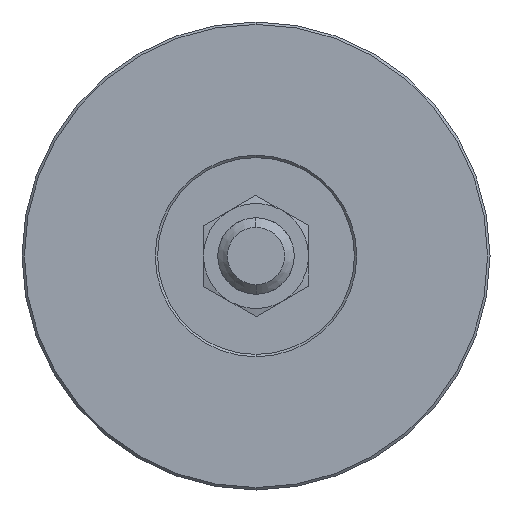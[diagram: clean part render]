
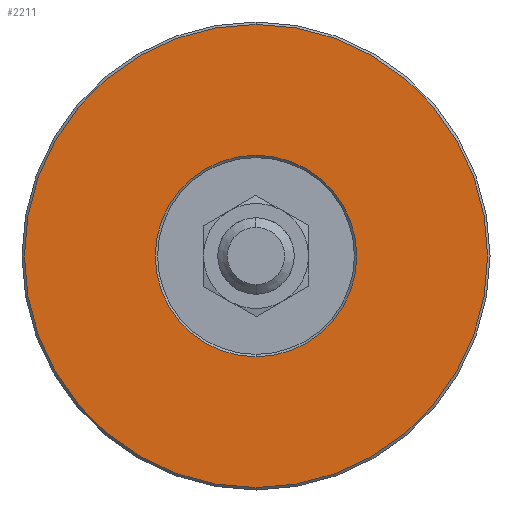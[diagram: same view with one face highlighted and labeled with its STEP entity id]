
A CAD part, front view. The second image highlights one B-rep face of the part: STEP entity #2211.
In plain terms, the highlighted planar face has unit normal (0, -1, 0).
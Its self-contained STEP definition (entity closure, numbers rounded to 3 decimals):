
#25 = CARTESIAN_POINT ( 'NONE',  ( 0., 0., 0. ) ) ;
#163 = VERTEX_POINT ( 'NONE', #7366 ) ;
#194 = DIRECTION ( 'NONE',  ( 0., 1., 0. ) ) ;
#283 = ORIENTED_EDGE ( 'NONE', *, *, #7737, .T. ) ;
#528 = AXIS2_PLACEMENT_3D ( 'NONE', #25, #734, #5516 ) ;
#734 = DIRECTION ( 'NONE',  ( 0., -1., 0. ) ) ;
#1046 = CARTESIAN_POINT ( 'NONE',  ( 20.6, 0., 0. ) ) ;
#1187 = ORIENTED_EDGE ( 'NONE', *, *, #8166, .T. ) ;
#1297 = EDGE_CURVE ( 'NONE', #8012, #163, #7784, .T. ) ;
#1320 = AXIS2_PLACEMENT_3D ( 'NONE', #7611, #3535, #8329 ) ;
#2211 = ADVANCED_FACE ( 'NONE', ( #3279, #5302 ), #3852, .T. ) ;
#2237 = DIRECTION ( 'NONE',  ( 0., 0., -1. ) ) ;
#2625 = ORIENTED_EDGE ( 'NONE', *, *, #2873, .T. ) ;
#2873 = EDGE_CURVE ( 'NONE', #8107, #8569, #5507, .T. ) ;
#2999 = CARTESIAN_POINT ( 'NONE',  ( 0., 0., 48.5 ) ) ;
#3039 = AXIS2_PLACEMENT_3D ( 'NONE', #1046, #3143, #4525 ) ;
#3143 = DIRECTION ( 'NONE',  ( 0., -1., 0. ) ) ;
#3279 = FACE_OUTER_BOUND ( 'NONE', #3948, .T. ) ;
#3373 = CIRCLE ( 'NONE', #528, 48.5 ) ;
#3535 = DIRECTION ( 'NONE',  ( 0., 1., 0. ) ) ;
#3852 = PLANE ( 'NONE',  #3039 ) ;
#3948 = EDGE_LOOP ( 'NONE', ( #4898, #283 ) ) ;
#4127 = CARTESIAN_POINT ( 'NONE',  ( 0., 0., 21.1 ) ) ;
#4498 = AXIS2_PLACEMENT_3D ( 'NONE', #5665, #194, #2237 ) ;
#4525 = DIRECTION ( 'NONE',  ( 0., 0., -1. ) ) ;
#4898 = ORIENTED_EDGE ( 'NONE', *, *, #1297, .T. ) ;
#5286 = CARTESIAN_POINT ( 'NONE',  ( 0., 0., -21.1 ) ) ;
#5302 = FACE_BOUND ( 'NONE', #5493, .T. ) ;
#5493 = EDGE_LOOP ( 'NONE', ( #1187, #2625 ) ) ;
#5507 = CIRCLE ( 'NONE', #4498, 21.1 ) ;
#5516 = DIRECTION ( 'NONE',  ( 0., 0., -1. ) ) ;
#5562 = CARTESIAN_POINT ( 'NONE',  ( 0., 0., 0. ) ) ;
#5665 = CARTESIAN_POINT ( 'NONE',  ( 0., 0., 0. ) ) ;
#5976 = AXIS2_PLACEMENT_3D ( 'NONE', #5562, #7488, #6922 ) ;
#6922 = DIRECTION ( 'NONE',  ( 0., 0., -1. ) ) ;
#7366 = CARTESIAN_POINT ( 'NONE',  ( 0., 0., -48.5 ) ) ;
#7488 = DIRECTION ( 'NONE',  ( 0., -1., 0. ) ) ;
#7611 = CARTESIAN_POINT ( 'NONE',  ( 0., 0., 0. ) ) ;
#7737 = EDGE_CURVE ( 'NONE', #163, #8012, #3373, .T. ) ;
#7784 = CIRCLE ( 'NONE', #5976, 48.5 ) ;
#8012 = VERTEX_POINT ( 'NONE', #2999 ) ;
#8107 = VERTEX_POINT ( 'NONE', #4127 ) ;
#8166 = EDGE_CURVE ( 'NONE', #8569, #8107, #8537, .T. ) ;
#8329 = DIRECTION ( 'NONE',  ( 0., 0., -1. ) ) ;
#8537 = CIRCLE ( 'NONE', #1320, 21.1 ) ;
#8569 = VERTEX_POINT ( 'NONE', #5286 ) ;
